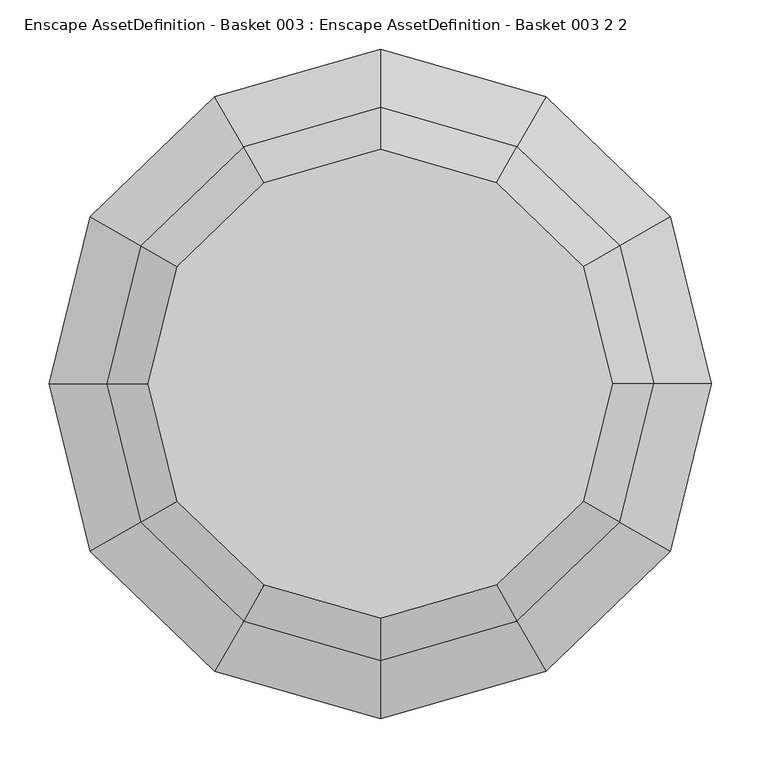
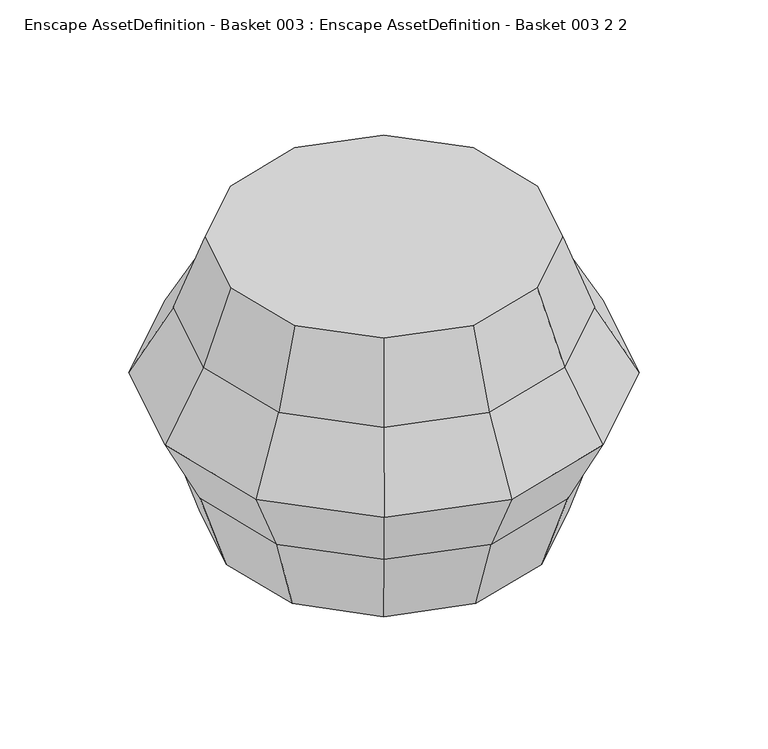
"""IFC4 building model written with IfcOpenShell, lengths in millimetres: geographic element geometry, Enscape AssetDefinition - Basket 003 : Enscape AssetDefinition - Basket 003 2 2."""

from ifc_helpers import new_model, si_unit, origin, place, context, project, spatial, triangles, source, transform, mapped, element, save


def enscape_assetdefinition_basket_003_enscape_assetdefinition_e8d1e2aa(model_context):
    return source(origin(), model_context, "Body", "Tessellation", [
        triangles([(141.8460566, 245.6845676, 121.6479254), (121.6542386, 210.7112845, 0.0), (0.0, 286.6319774, 121.6479254), (-141.8460566, 245.6845676, 121.6479254), (-121.6542386, 210.7112845, 0.0), (0.0, 245.8298531, 0.0), (-212.8949266, 122.9149266, 0.0), (-243.3084772, -1.75e-05, 0.0), (-248.2305968, 143.3159887, 121.6479254), (-295.5621918, 170.6429272, 228.0515596), (-248.2305787, -143.3160069, 121.6479254), (-283.6920769, -1.75e-05, 121.6479254), (-121.6542386, -210.7112845, 0.0), (-212.8948721, -122.9149629, 0.0), (-168.8926525, -292.5307271, 228.0515596), (-141.8460294, -245.684604, 121.6479254), (121.6542386, -210.7112845, 0.0), (1.75e-05, -245.8298531, 0.0), (3.5e-05, -286.6320138, 121.6479254), (141.8460566, -245.6845676, 121.6479254), (212.8949266, -122.9148993, 0.0), (283.6921133, 0.0, 121.6479254), (168.892707, -292.5306726, 228.0515596), (248.2306513, -143.3159615, 121.6479254), (248.2306513, 143.3159615, 121.6479254), (212.8949266, 122.9148993, 0.0), (243.3084772, 0.0, 0.0), (0.0, 0.0, 0.0), (244.1949238, 140.985971, 334.1152164), (168.892707, 292.5306726, 228.0515596), (0.0, 341.2858543, 228.0515596), (295.5621918, 170.6429272, 228.0515596), (139.5399383, 241.6902439, 334.1152164), (206.9465252, 119.4806158, 449.9999308), (279.0799129, 0.0, 334.1152164), (0.0, 238.9612498, 449.9999308), (0.0, 281.9719784, 334.1152164), (118.2551637, 204.8239077, 449.9999308), (1.75e-05, 0.0, 450.0000034), (236.5103275, 0.0, 449.9999308), (337.7854139, 0.0, 228.0515596), (206.9465434, -119.4806158, 449.9999308), (139.5399656, -241.6902439, 334.1152164), (244.1949238, -140.985971, 334.1152164), (295.5621918, -170.6429272, 228.0515596), (118.2551728, -204.8239077, 449.9999308), (3.5e-05, -238.9612498, 449.9999308), (3.5e-05, -281.9719784, 334.1152164), (3.5e-05, -341.2858543, 228.0515596), (-206.9464889, -119.4806249, 449.9999308), (-139.5399383, -241.6902802, 334.1152164), (-118.2551274, -204.8239258, 449.9999308), (-236.5102548, 0.0, 449.9999308), (-244.1948875, -140.9859892, 334.1152164), (-279.0798766, -1.75e-05, 334.1152164), (-295.5621918, -170.6429272, 228.0515596), (-337.7853413, -1.75e-05, 228.0515596), (-118.2551547, 204.8239258, 449.9999308), (-206.9464889, 119.4806249, 449.9999308), (-139.5399383, 241.6902802, 334.1152164), (-168.892707, 292.5307089, 228.0515596), (-244.1948875, 140.9859892, 334.1152164)], [[37, 31, 61], [61, 31, 3], [38, 36, 39], [36, 58, 39], [60, 58, 36], [37, 61, 60], [60, 36, 37], [61, 10, 62], [62, 10, 57], [61, 62, 60], [60, 62, 59], [58, 59, 39], [60, 59, 58], [59, 53, 39], [55, 53, 59], [62, 57, 55], [55, 59, 62], [54, 56, 15], [57, 56, 54], [57, 54, 55], [55, 54, 50], [53, 50, 39], [55, 50, 53], [50, 52, 39], [51, 52, 50], [54, 15, 51], [51, 50, 54], [15, 49, 48], [48, 49, 23], [15, 48, 51], [51, 48, 47], [52, 47, 39], [51, 47, 52], [47, 46, 39], [43, 46, 47], [48, 23, 43], [43, 47, 48], [44, 45, 41], [23, 45, 44], [23, 44, 43], [43, 44, 42], [46, 42, 39], [43, 42, 46], [42, 40, 39], [35, 40, 42], [44, 41, 35], [35, 42, 44], [40, 34, 39], [34, 38, 39], [35, 34, 40], [33, 38, 34], [33, 37, 36], [33, 36, 38], [35, 29, 34], [41, 29, 35], [33, 34, 29], [41, 32, 29], [30, 31, 37], [29, 32, 30], [3, 31, 30], [30, 37, 33], [29, 30, 33], [25, 32, 41], [30, 32, 25], [26, 27, 28], [22, 27, 26], [22, 26, 25], [25, 41, 22], [41, 45, 24], [24, 45, 23], [41, 24, 22], [22, 24, 21], [27, 21, 28], [22, 21, 27], [21, 17, 28], [21, 24, 20], [21, 20, 17], [24, 23, 20], [19, 49, 15], [23, 49, 19], [23, 19, 20], [20, 19, 18], [17, 18, 28], [20, 18, 17], [18, 13, 28], [16, 13, 18], [16, 18, 19], [19, 15, 16], [15, 56, 11], [11, 56, 57], [15, 11, 16], [16, 11, 14], [13, 14, 28], [16, 14, 13], [14, 8, 28], [14, 11, 12], [14, 12, 8], [11, 57, 12], [9, 10, 61], [57, 10, 9], [57, 9, 12], [12, 9, 7], [8, 7, 28], [12, 7, 8], [7, 5, 28], [4, 5, 7], [4, 7, 9], [61, 3, 4], [9, 61, 4], [4, 3, 6], [5, 6, 28], [4, 6, 5], [2, 26, 28], [6, 2, 28], [6, 3, 1], [1, 25, 26], [6, 1, 2], [30, 25, 1], [3, 30, 1], [1, 26, 2]]),
    ])


if __name__ == "__main__":
    model = new_model("IFC4")
    model_context = context("Model", 3, world=origin())
    ifc_project = project(units=[si_unit("LENGTHUNIT", "METRE", prefix="MILLI")], contexts=[model_context])
    site = spatial("IfcSite", under=ifc_project)
    building = spatial("IfcBuilding", under=site)
    placement = place(None, origin())
    enscape_assetdefinition_basket_003_enscape_assetdefinition_shape = enscape_assetdefinition_basket_003_enscape_assetdefinition_e8d1e2aa(model_context)
    element("IfcGeographicElement", 1, ObjectType="Enscape AssetDefinition - Basket 003 : Enscape AssetDefinition - Basket 003 2 2", at=placement, inside=building, context=model_context, shape_type="MappedRepresentation", body=[
        mapped(enscape_assetdefinition_basket_003_enscape_assetdefinition_shape, transform((0.0, 0.0, 0.0), x_axis=(1.0, 0.0, 0.0), y_axis=(0.0, 1.0, 0.0), z_axis=(0.0, 0.0, 1.0))),
    ])
    save(model, "model.ifc")
